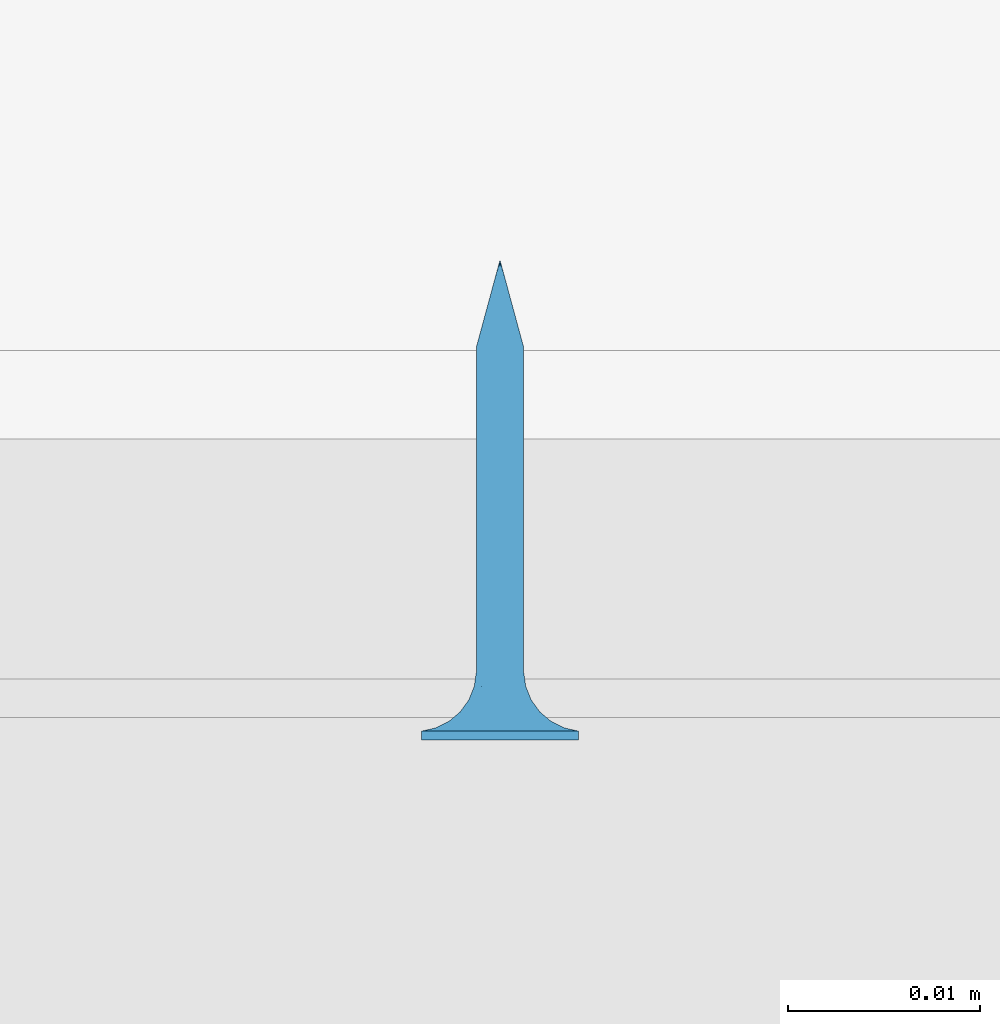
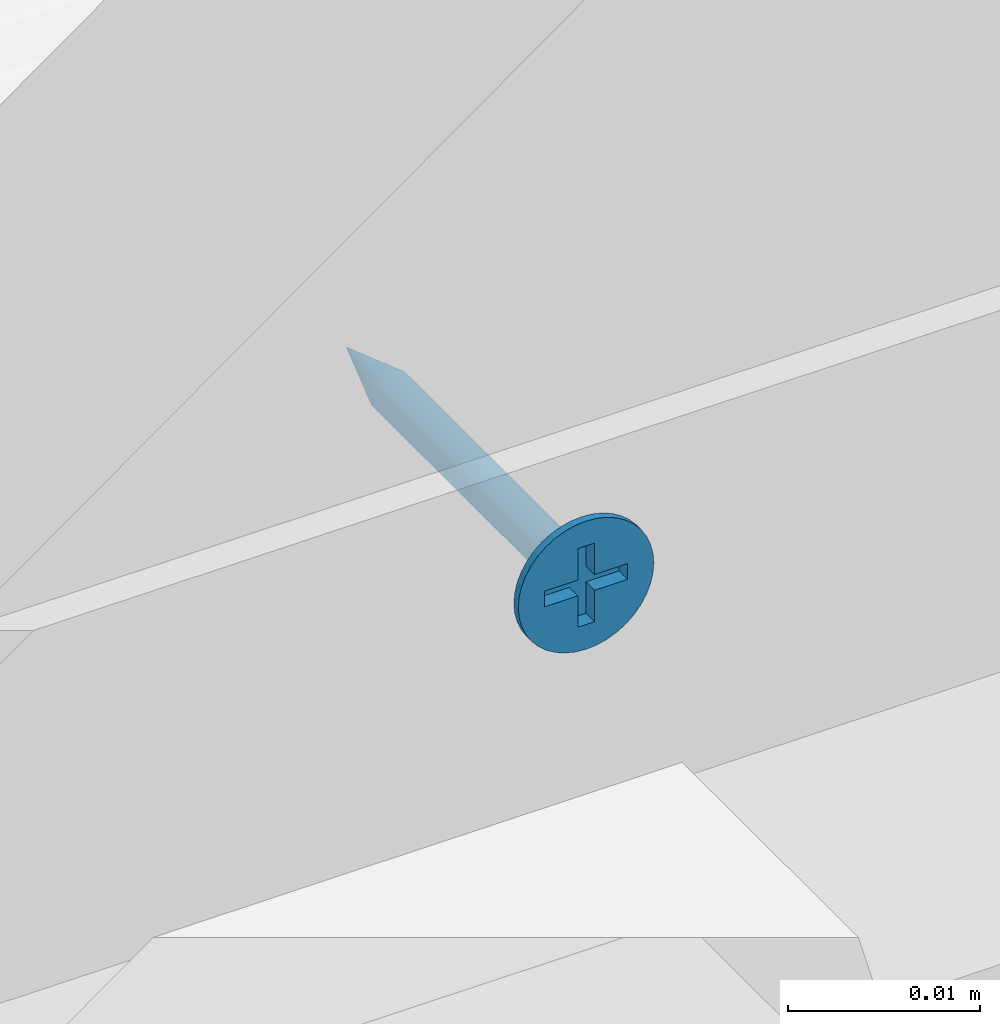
# One storey, part 38 of 79: 1 slab.
"""IFC2X3 building model written with IfcOpenShell, lengths in millimetres."""

from ifc_helpers import new_model, entity, si_unit, converted_unit, direction, frame, origin, origin_with_axes, place, context, project, spatial, faceted_brep, element, save


model = new_model("IFC2X3")

# Units and contexts
model_context = context("Model", 3, precision=1e-05, world=origin(), true_north=direction((0.0, 1.0, 0.0)))
ifc_project = project(units=[si_unit("LENGTHUNIT", "METRE", prefix="MILLI"), si_unit("AREAUNIT", "SQUARE_METRE"), si_unit("VOLUMEUNIT", "CUBIC_METRE"), converted_unit("PLANEANGLEUNIT", "DEGREE", entity("IfcPlaneAngleMeasure", 0.01745), si_unit("PLANEANGLEUNIT", "RADIAN"), dimensions=[0, 0, 0, 0, 0, 0, 0]), si_unit("SOLIDANGLEUNIT", "STERADIAN"), si_unit("MASSUNIT", "GRAM"), si_unit("TIMEUNIT", "SECOND"), si_unit("THERMODYNAMICTEMPERATUREUNIT", "DEGREE_CELSIUS"), si_unit("LUMINOUSINTENSITYUNIT", "LUMEN")], contexts=[model_context])

# Site, building, storey
site_placement = place(None, origin_with_axes())
site = spatial("IfcSite", under=ifc_project, at=site_placement, Name="Default Site", CompositionType="ELEMENT")
building_placement = place(site_placement, origin_with_axes())
building = spatial("IfcBuilding", under=site, at=building_placement, Name="Default Building", CompositionType="ELEMENT")
storey_placement = place(building_placement, origin_with_axes())
storey = spatial("IfcBuildingStorey", under=building, at=storey_placement, Name="Default Building Storey", CompositionType="ELEMENT", Elevation=0.0)

# Slab
slab_placement = place(storey_placement, frame((3630.499834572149, 5017.241866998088, 440.6779499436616), z_axis=(0.0, 0.0, 1.0), x_axis=(1.0, 0.0, 0.0)))
element("IfcSlab", 1, at=slab_placement, inside=storey, Name="Łącznik mechaniczny", context=model_context, shape_type="Brep", body=[
    faceted_brep([(-136.5890362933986, -3387.475459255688, 554.9298199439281), (-136.4636235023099, -3387.475459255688, 555.0766594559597), (-136.4636235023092, -3370.55807436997, 555.0766594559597), (-136.5890362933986, -3370.55807436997, 554.9298199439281), (-136.9005263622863, -3387.475459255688, 554.7035091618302), (-136.9005263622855, -3370.55807436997, 554.7035091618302), (-137.0789337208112, -3370.55807436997, 554.6296104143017), (-137.078933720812, -3387.475459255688, 554.6296104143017), (-137.2667048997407, -3387.475459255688, 554.5845305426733), (-137.2667048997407, -3370.55807436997, 554.5845305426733), (-137.4592163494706, -3370.55807436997, 554.5693795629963), (-137.4592163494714, -3387.475459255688, 554.5693795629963), (-136.4636235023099, -3387.475459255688, 556.5233405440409), (-136.5890362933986, -3387.475459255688, 556.6701800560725), (-136.5890362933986, -3370.55807436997, 556.6701800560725), (-136.4636235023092, -3370.55807436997, 556.5233405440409), (-138.4548091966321, -3370.55807436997, 556.5233405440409), (-138.3293964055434, -3370.55807436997, 556.6701800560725), (-138.3293964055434, -3387.475459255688, 556.6701800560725), (-138.4548091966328, -3387.475459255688, 556.5233405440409), (-136.7358758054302, -3370.55807436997, 554.8044071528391), (-136.7358758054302, -3387.475459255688, 554.8044071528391), (-138.1825568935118, -3387.475459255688, 556.7955928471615), (-138.1825568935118, -3370.55807436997, 556.7955928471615), (-138.0179063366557, -3370.55807436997, 556.8964908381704), (-138.0179063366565, -3387.475459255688, 556.8964908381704), (-136.3627255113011, -3387.475459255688, 556.3586899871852), (-136.3627255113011, -3370.55807436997, 556.3586899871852), (-136.7358758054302, -3387.475459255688, 556.7955928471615), (-136.7358758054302, -3370.55807436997, 556.7955928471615), (-137.6517277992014, -3387.475459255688, 554.5845305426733), (-137.6517277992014, -3370.55807436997, 554.5845305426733), (-137.83949897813, -3370.55807436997, 554.6296104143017), (-137.8394989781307, -3387.475459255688, 554.6296104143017), (-136.3627255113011, -3387.475459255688, 555.241310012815), (-136.3627255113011, -3370.55807436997, 555.241310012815), (-138.0179063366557, -3370.55807436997, 554.7035091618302), (-138.0179063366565, -3387.475459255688, 554.7035091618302), (-138.6746858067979, -3370.55807436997, 555.6074885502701), (-138.6898367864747, -3370.55807436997, 555.8000000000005), (-138.6898367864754, -3387.475459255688, 555.8000000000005), (-138.6746858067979, -3387.475459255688, 555.6074885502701), (-136.2285959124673, -3387.475459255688, 555.8000000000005), (-136.2437468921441, -3387.475459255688, 555.9925114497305), (-136.2437468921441, -3370.55807436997, 555.9925114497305), (-136.2285959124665, -3370.55807436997, 555.8000000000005), (-138.3293964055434, -3370.55807436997, 554.9298199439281), (-138.4548091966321, -3370.55807436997, 555.0766594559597), (-138.4548091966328, -3387.475459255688, 555.0766594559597), (-138.3293964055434, -3387.475459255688, 554.9298199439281), (-137.83949897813, -3370.55807436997, 556.9703895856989), (-137.8394989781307, -3387.475459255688, 556.9703895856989), (-138.1825568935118, -3370.55807436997, 554.8044071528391), (-138.1825568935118, -3387.475459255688, 554.8044071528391), (-138.5557071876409, -3370.55807436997, 555.241310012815), (-138.6296059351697, -3370.55807436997, 555.4197173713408), (-138.6296059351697, -3387.475459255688, 555.4197173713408), (-138.5557071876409, -3387.475459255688, 555.241310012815), (-136.2888267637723, -3387.475459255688, 555.4197173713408), (-136.2437468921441, -3387.475459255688, 555.6074885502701), (-136.2437468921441, -3370.55807436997, 555.6074885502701), (-136.2888267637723, -3370.55807436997, 555.4197173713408), (-136.2888267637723, -3387.475459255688, 556.1802826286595), (-136.2888267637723, -3370.55807436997, 556.1802826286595), (-137.4592163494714, -3387.475459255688, 557.0306204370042), (-137.4592163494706, -3370.55807436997, 557.0306204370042), (-137.2667048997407, -3370.55807436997, 557.0154694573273), (-137.2667048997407, -3387.475459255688, 557.0154694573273), (-137.0789337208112, -3370.55807436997, 556.9703895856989), (-137.078933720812, -3387.475459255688, 556.9703895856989), (-137.6517277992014, -3387.475459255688, 557.0154694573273), (-137.6517277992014, -3370.55807436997, 557.0154694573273), (-136.9005263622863, -3387.475459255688, 556.8964908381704), (-136.9005263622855, -3370.55807436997, 556.8964908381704), (-138.6296059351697, -3370.55807436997, 556.1802826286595), (-138.5557071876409, -3370.55807436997, 556.3586899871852), (-138.5557071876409, -3387.475459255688, 556.3586899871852), (-138.6296059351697, -3387.475459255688, 556.1802826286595), (-138.6746858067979, -3370.55807436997, 555.9925114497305), (-138.6746858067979, -3387.475459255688, 555.9925114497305), (-141.5377463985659, -3390.556721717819, 555.8000000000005), (-141.5377463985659, -3391.020944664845, 555.8000000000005), (-141.4875329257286, -3391.020944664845, 555.1619773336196), (-141.4875329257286, -3390.556721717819, 555.1619773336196), (-141.338128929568, -3391.020944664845, 554.539664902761), (-141.338128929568, -3390.556721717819, 554.539664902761), (-141.0932132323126, -3391.020944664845, 553.948386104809), (-141.0932132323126, -3390.556721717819, 553.948386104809), (-140.7588164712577, -3391.020944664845, 553.4027001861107), (-140.7588164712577, -3390.556721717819, 553.4027001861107), (-140.3431726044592, -3391.020944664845, 552.9160437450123), (-140.4541727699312, -3390.556721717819, 553.0314907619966), (-140.1080097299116, -3390.556721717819, 552.6986614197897), (-139.8565161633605, -3391.020944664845, 552.5003998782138), (-139.7251262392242, -3390.556721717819, 552.4088262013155), (-139.3108302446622, -3391.020944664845, 552.1660031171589), (-139.3108302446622, -3390.556721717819, 552.1660031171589), (-138.8708651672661, -3390.556721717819, 551.9735584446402), (-138.7195514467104, -3391.020944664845, 551.9210874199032), (-138.4113302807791, -3390.556721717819, 551.8341600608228), (-137.9385961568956, -3390.556721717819, 551.7497404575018), (-138.0972390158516, -3391.020944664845, 551.7716834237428), (-137.4592163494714, -3391.020944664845, 551.7214699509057), (-137.4592163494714, -3390.556721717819, 551.7214699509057), (-136.8211936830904, -3391.020944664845, 551.7716834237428), (-136.8211936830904, -3390.556721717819, 551.7716834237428), (-136.1988812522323, -3391.020944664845, 551.9210874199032), (-136.1988812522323, -3390.556721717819, 551.9210874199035), (-135.6076024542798, -3391.020944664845, 552.1660031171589), (-135.6076024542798, -3390.556721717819, 552.1660031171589), (-135.0619165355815, -3391.020944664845, 552.5003998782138), (-135.0619165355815, -3390.556721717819, 552.5003998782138), (-134.5752600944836, -3391.020944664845, 552.9160437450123), (-134.5752600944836, -3390.556721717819, 552.9160437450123), (-134.1596162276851, -3391.020944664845, 553.4027001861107), (-134.1596162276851, -3390.556721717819, 553.4027001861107), (-133.8252194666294, -3391.020944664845, 553.948386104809), (-133.8252194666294, -3390.556721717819, 553.948386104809), (-133.580303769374, -3391.020944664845, 554.539664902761), (-133.580303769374, -3390.556721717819, 554.539664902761), (-133.4308997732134, -3391.020944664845, 556.438022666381), (-133.4308997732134, -3390.556721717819, 556.438022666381), (-133.3806863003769, -3390.556721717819, 555.8000000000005), (-133.3806863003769, -3391.020944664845, 555.8000000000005), (-133.4308997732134, -3390.556721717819, 555.1619773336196), (-133.4308997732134, -3391.020944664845, 555.1619773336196), (-133.580303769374, -3391.020944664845, 557.0603350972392), (-133.580303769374, -3390.556721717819, 557.0603350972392), (-133.8252194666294, -3391.020944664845, 557.6516138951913), (-133.8252194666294, -3390.556721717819, 557.6516138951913), (-134.1596162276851, -3391.020944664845, 558.1972998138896), (-134.1596162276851, -3390.556721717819, 558.1972998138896), (-134.5752600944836, -3391.020944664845, 558.683956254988), (-134.5752600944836, -3390.556721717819, 558.683956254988), (-135.0619165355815, -3391.020944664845, 559.0996001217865), (-135.0619165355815, -3390.556721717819, 559.0996001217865), (-135.6076024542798, -3391.020944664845, 559.4339968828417), (-135.6076024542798, -3390.556721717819, 559.4339968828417), (-136.1988812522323, -3391.020944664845, 559.6789125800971), (-136.1988812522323, -3390.556721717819, 559.6789125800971), (-136.8211936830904, -3391.020944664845, 559.8283165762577), (-136.8211936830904, -3390.556721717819, 559.8283165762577), (-137.4592163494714, -3391.020944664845, 559.8785300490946), (-137.4592163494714, -3390.556721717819, 559.8785300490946), (-138.0972390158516, -3391.020944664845, 559.8283165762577), (-138.0972390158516, -3390.556721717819, 559.8283165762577), (-138.7195514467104, -3391.020944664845, 559.6789125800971), (-138.7195514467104, -3390.556721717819, 559.6789125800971), (-139.3108302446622, -3391.020944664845, 559.4339968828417), (-139.3108302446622, -3390.556721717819, 559.4339968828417), (-139.8565161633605, -3391.020944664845, 559.0996001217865), (-139.8565161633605, -3390.556721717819, 559.0996001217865), (-140.3431726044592, -3391.020944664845, 558.683956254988), (-140.3431726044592, -3390.556721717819, 558.683956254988), (-140.7588164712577, -3391.020944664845, 558.1972998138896), (-140.7588164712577, -3390.556721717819, 558.1972998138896), (-141.0932132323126, -3391.020944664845, 557.6516138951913), (-141.0932132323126, -3390.556721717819, 557.6516138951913), (-141.338128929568, -3391.020944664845, 557.0603350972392), (-141.338128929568, -3390.556721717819, 557.0603350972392), (-141.4875329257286, -3391.020944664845, 556.438022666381), (-141.4875329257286, -3390.556721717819, 556.438022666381), (-137.8060615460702, -3388.229732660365, 554.5055560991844), (-137.4592163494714, -3388.229732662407, 554.4598930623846), (-138.1292698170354, -3388.229732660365, 554.6394333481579), (-138.4068150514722, -3388.229732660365, 554.8524012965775), (-138.6197830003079, -3388.229732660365, 555.1299465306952), (-138.7536602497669, -3388.229732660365, 555.4531548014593), (-138.7993232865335, -3388.229732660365, 555.7999999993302), (-138.7536602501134, -3388.229732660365, 556.1468451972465), (-138.6197830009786, -3388.229732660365, 556.4700534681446), (-138.4068150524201, -3388.229732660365, 556.7475987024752), (-138.1292698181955, -3388.229732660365, 556.9605666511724), (-137.8060615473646, -3388.229732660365, 557.0944439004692), (-137.4592163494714, -3388.229732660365, 557.1401069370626), (-137.1123711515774, -3388.229732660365, 557.0944439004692), (-136.7891628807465, -3388.229732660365, 556.9605666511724), (-136.5116176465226, -3388.229732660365, 556.7475987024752), (-136.2986496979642, -3388.229732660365, 556.4700534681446), (-136.1647724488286, -3388.229732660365, 556.1468451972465), (-136.1191094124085, -3388.229732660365, 555.7999999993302), (-136.1647724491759, -3388.229732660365, 555.4531548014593), (-136.2986496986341, -3388.229732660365, 555.1299465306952), (-136.5116176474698, -3388.229732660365, 554.8524012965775), (-136.7891628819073, -3388.229732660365, 554.6394333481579), (-137.1123711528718, -3388.229732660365, 554.5055560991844), (-137.4592163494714, -3388.936142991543, 554.1737111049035), (-137.8801308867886, -3388.936142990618, 554.2291255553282), (-138.2723607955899, -3388.936142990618, 554.39159250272), (-138.6091762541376, -3388.936142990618, 554.6500400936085), (-138.8676238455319, -3388.936142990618, 554.9868555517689), (-139.0300907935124, -3388.936142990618, 555.3790854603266), (-139.0855052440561, -3388.936142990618, 555.7999999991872), (-139.0300907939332, -3388.936142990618, 556.2209145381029), (-138.8676238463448, -3388.936142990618, 556.6131444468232), (-138.6091762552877, -3388.936142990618, 556.949959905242), (-138.2723607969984, -3388.936142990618, 557.2084074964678), (-137.8801308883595, -3388.936142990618, 557.3708744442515), (-137.4592163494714, -3388.936142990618, 557.4262888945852), (-137.0383018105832, -3388.936142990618, 557.3708744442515), (-136.6460719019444, -3388.936142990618, 557.2084074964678), (-136.3092564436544, -3388.936142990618, 556.949959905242), (-136.0508088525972, -3388.936142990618, 556.6131444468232), (-135.8883419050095, -3388.936142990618, 556.2209145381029), (-135.8329274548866, -3388.936142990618, 555.7999999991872), (-135.8883419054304, -3388.936142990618, 555.3790854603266), (-136.0508088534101, -3388.936142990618, 554.9868555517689), (-136.3092564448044, -3388.936142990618, 554.6500400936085), (-136.6460719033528, -3388.936142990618, 554.39159250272), (-137.0383018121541, -3388.936142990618, 554.2291255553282), (-137.4592163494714, -3389.553938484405, 553.727343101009), (-137.9956594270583, -3389.553938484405, 553.7979671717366), (-138.4955447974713, -3389.553938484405, 554.0050264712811), (-138.9248060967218, -3389.553938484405, 554.3344102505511), (-139.2541898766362, -3389.553938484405, 554.7636715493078), (-139.46124917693, -3389.553938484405, 555.2635569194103), (-139.5318732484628, -3389.553938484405, 555.7999999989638), (-139.4612491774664, -3389.553938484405, 556.3364430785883), (-139.2541898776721, -3389.553938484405, 556.8363284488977), (-138.9248060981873, -3389.553938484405, 557.2655897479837), (-138.495544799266, -3389.553938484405, 557.5949735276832), (-137.9956594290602, -3389.553938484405, 557.8020328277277), (-137.4592163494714, -3389.553938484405, 557.8726568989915), (-136.9227732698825, -3389.553938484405, 557.8020328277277), (-136.422887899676, -3389.553938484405, 557.5949735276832), (-135.9936266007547, -3389.553938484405, 557.2655897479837), (-135.6642428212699, -3389.553938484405, 556.8363284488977), (-135.4571835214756, -3389.553938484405, 556.3364430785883), (-135.3865594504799, -3389.553938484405, 555.7999999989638), (-135.457183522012, -3389.553938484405, 555.2635569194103), (-135.6642428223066, -3389.553938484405, 554.7636715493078), (-135.9936266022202, -3389.553938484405, 554.3344102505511), (-136.4228879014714, -3389.553938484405, 554.0050264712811), (-136.9227732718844, -3389.553938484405, 553.7979671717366), (-137.4592163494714, -3390.04747944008, 553.1465393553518), (-138.1459824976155, -3390.047479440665, 553.2369538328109), (-138.7859466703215, -3390.047479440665, 553.5020356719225), (-139.3354963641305, -3390.047479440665, 553.9237199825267), (-139.757180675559, -3390.047479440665, 554.4732696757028), (-140.0222625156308, -3390.047479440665, 555.1132338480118), (-140.1126769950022, -3390.047479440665, 555.7999999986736), (-140.0222625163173, -3390.047479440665, 556.4867661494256), (-139.7571806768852, -3390.047479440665, 557.1267303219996), (-139.3354963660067, -3390.047479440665, 557.6762800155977), (-138.7859466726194, -3390.047479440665, 558.0979643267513), (-138.1459825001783, -3390.047479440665, 558.3630461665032), (-137.4592163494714, -3390.047479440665, 558.4534606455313), (-136.7724501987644, -3390.047479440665, 558.3630461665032), (-136.1324860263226, -3390.047479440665, 558.0979643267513), (-135.5829363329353, -3390.047479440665, 557.6762800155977), (-135.1612520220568, -3390.047479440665, 557.1267303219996), (-134.8961701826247, -3390.047479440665, 556.4867661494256), (-134.8057557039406, -3390.047479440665, 555.7999999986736), (-134.8961701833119, -3390.047479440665, 555.1132338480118), (-135.1612520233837, -3390.047479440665, 554.4732696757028), (-135.5829363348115, -3390.047479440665, 553.9237199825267), (-136.1324860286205, -3390.047479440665, 553.5020356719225), (-136.7724502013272, -3390.047479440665, 553.2369538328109), (-137.4592163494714, -3390.388294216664, 552.4648055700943), (-138.3224281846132, -3390.388294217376, 552.5784495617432), (-139.1268135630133, -3390.388294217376, 552.9116368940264), (-139.8175549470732, -3390.388294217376, 553.4416613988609), (-140.3475794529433, -3390.388294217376, 554.1324027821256), (-140.6807667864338, -3390.388294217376, 554.9367881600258), (-140.7944107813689, -3390.388294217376, 555.7999999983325), (-140.6807667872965, -3390.388294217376, 556.6632118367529), (-140.3475794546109, -3390.388294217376, 557.4675972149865), (-139.8175549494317, -3390.388294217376, 558.1583385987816), (-139.1268135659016, -3390.388294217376, 558.6883631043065), (-138.3224281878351, -3390.388294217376, 559.0215504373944), (-137.4592163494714, -3390.388294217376, 559.1351944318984), (-136.5960045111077, -3390.388294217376, 559.0215504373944), (-135.7916191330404, -3390.388294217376, 558.6883631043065), (-135.1008777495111, -3390.388294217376, 558.1583385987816), (-134.5708532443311, -3390.388294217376, 557.4675972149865), (-134.2376659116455, -3390.388294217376, 556.6632118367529), (-134.1240219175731, -3390.388294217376, 555.7999999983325), (-134.2376659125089, -3390.388294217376, 554.9367881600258), (-134.5708532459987, -3390.388294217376, 554.1324027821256), (-135.1008777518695, -3390.388294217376, 553.4416613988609), (-135.7916191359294, -3390.388294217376, 552.9116368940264), (-136.5960045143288, -3390.388294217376, 552.5784495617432), (-137.4592163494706, -3366.021033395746, 555.8000000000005), (-139.9592163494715, -3391.020944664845, 556.3000000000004), (-137.9592163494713, -3391.020944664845, 556.3000000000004), (-139.9592163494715, -3391.020944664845, 555.3000000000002), (-137.9592163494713, -3391.020944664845, 555.3000000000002), (-137.9592163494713, -3391.020944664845, 553.3000000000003), (-136.9592163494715, -3391.020944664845, 553.3000000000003), (-136.9592163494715, -3391.020944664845, 555.3000000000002), (-134.9592163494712, -3391.020944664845, 555.3000000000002), (-134.9592163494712, -3391.020944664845, 556.3000000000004), (-136.9592163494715, -3391.020944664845, 556.3000000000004), (-136.9592163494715, -3391.020944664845, 558.3000000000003), (-137.9592163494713, -3391.020944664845, 558.3000000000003), (-136.9592163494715, -3390.128974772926, 556.3000000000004), (-134.9592163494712, -3390.128974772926, 556.3000000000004), (-134.9592163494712, -3390.128974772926, 555.3000000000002), (-136.9592163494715, -3390.128974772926, 555.3000000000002), (-136.9592163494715, -3390.128974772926, 553.3000000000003), (-137.9592163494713, -3390.128974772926, 553.3000000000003), (-137.9592163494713, -3390.128974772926, 555.3000000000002), (-139.9592163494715, -3390.128974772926, 555.3000000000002), (-139.9592163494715, -3390.128974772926, 556.3000000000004), (-137.9592163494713, -3390.128974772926, 556.3000000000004), (-137.9592163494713, -3390.128974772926, 558.3000000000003), (-136.9592163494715, -3390.128974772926, 558.3000000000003)], [[[0, 1, 2, 3]], [[4, 5, 6, 7]], [[8, 9, 10, 11]], [[12, 13, 14, 15]], [[16, 17, 18, 19]], [[0, 3, 20, 21]], [[22, 23, 24, 25]], [[26, 12, 15, 27]], [[28, 29, 14, 13]], [[30, 31, 32, 33]], [[1, 34, 35, 2]], [[18, 17, 23, 22]], [[7, 6, 9, 8]], [[33, 32, 36, 37]], [[38, 39, 40, 41]], [[42, 43, 44, 45]], [[46, 47, 48, 49]], [[25, 24, 50, 51]], [[37, 36, 52, 53]], [[54, 55, 56, 57]], [[53, 52, 46, 49]], [[47, 54, 57, 48]], [[58, 59, 60, 61]], [[59, 42, 45, 60]], [[43, 62, 63, 44]], [[64, 65, 66, 67]], [[67, 66, 68, 69]], [[55, 38, 41, 56]], [[70, 71, 65, 64]], [[72, 73, 29, 28]], [[74, 75, 76, 77]], [[69, 68, 73, 72]], [[39, 78, 79, 40]], [[75, 16, 19, 76]], [[62, 26, 27, 63]], [[11, 10, 31, 30]], [[21, 20, 5, 4]], [[34, 58, 61, 35]], [[51, 50, 71, 70]], [[78, 74, 77, 79]], [[80, 81, 82, 83]], [[84, 85, 83, 82]], [[86, 87, 85, 84]], [[87, 86, 88, 89]], [[88, 90, 89]], [[90, 91, 89]], [[92, 91, 93]], [[91, 90, 93]], [[93, 94, 92]], [[93, 95, 94]], [[95, 96, 94]], [[97, 96, 98]], [[96, 95, 98]], [[98, 99, 97]], [[100, 99, 101]], [[99, 98, 101]], [[101, 102, 100]], [[102, 103, 100]], [[103, 102, 104, 105]], [[106, 107, 105, 104]], [[108, 109, 107, 106]], [[109, 108, 110, 111]], [[112, 113, 111, 110]], [[113, 112, 114, 115]], [[116, 117, 115, 114]], [[118, 119, 117, 116]], [[120, 121, 122, 123]], [[123, 122, 124, 125]], [[119, 118, 125, 124]], [[126, 127, 121, 120]], [[128, 129, 127, 126]], [[129, 128, 130, 131]], [[132, 133, 131, 130]], [[133, 132, 134, 135]], [[136, 137, 135, 134]], [[138, 139, 137, 136]], [[139, 138, 140, 141]], [[142, 143, 141, 140]], [[143, 142, 144, 145]], [[146, 147, 145, 144]], [[148, 149, 147, 146]], [[149, 148, 150, 151]], [[152, 153, 151, 150]], [[153, 152, 154, 155]], [[156, 157, 155, 154]], [[158, 159, 157, 156]], [[159, 158, 160, 161]], [[81, 80, 161, 160]], [[162, 11, 30]], [[162, 163, 11]], [[30, 33, 162]], [[162, 33, 164]], [[37, 164, 33]], [[164, 37, 53]], [[53, 165, 164]], [[53, 49, 165]], [[166, 49, 48]], [[166, 165, 49]], [[48, 57, 166]], [[166, 57, 167]], [[56, 167, 57]], [[167, 56, 41]], [[41, 168, 167]], [[41, 40, 168]], [[169, 40, 79]], [[169, 168, 40]], [[79, 77, 169]], [[169, 77, 170]], [[76, 170, 77]], [[170, 76, 19]], [[19, 171, 170]], [[19, 18, 171]], [[172, 18, 22]], [[172, 171, 18]], [[22, 25, 172]], [[172, 25, 173]], [[51, 173, 25]], [[173, 51, 70]], [[70, 174, 173]], [[70, 64, 174]], [[175, 64, 67]], [[175, 174, 64]], [[67, 69, 175]], [[175, 69, 176]], [[72, 176, 69]], [[176, 72, 28]], [[28, 177, 176]], [[28, 13, 177]], [[178, 13, 12]], [[178, 177, 13]], [[12, 26, 178]], [[178, 26, 179]], [[62, 179, 26]], [[179, 62, 43]], [[43, 180, 179]], [[43, 42, 180]], [[181, 42, 59]], [[181, 180, 42]], [[59, 58, 181]], [[181, 58, 182]], [[34, 182, 58]], [[182, 34, 1]], [[1, 183, 182]], [[1, 0, 183]], [[184, 0, 21]], [[184, 183, 0]], [[21, 4, 184]], [[184, 4, 185]], [[7, 185, 4]], [[185, 7, 8]], [[8, 163, 185]], [[8, 11, 163]], [[186, 163, 187]], [[162, 187, 163]], [[164, 188, 187, 162]], [[165, 189, 188, 164]], [[166, 190, 189, 165]], [[167, 191, 190, 166]], [[168, 192, 191, 167]], [[169, 193, 192, 168]], [[170, 194, 193, 169]], [[171, 195, 194, 170]], [[172, 196, 195, 171]], [[173, 197, 196, 172]], [[174, 198, 197, 173]], [[175, 199, 198, 174]], [[176, 200, 199, 175]], [[177, 201, 200, 176]], [[178, 202, 201, 177]], [[179, 203, 202, 178]], [[180, 204, 203, 179]], [[181, 205, 204, 180]], [[182, 206, 205, 181]], [[183, 207, 206, 182]], [[184, 208, 207, 183]], [[185, 209, 208, 184]], [[185, 163, 209]], [[186, 209, 163]], [[210, 186, 211]], [[187, 211, 186]], [[188, 212, 211, 187]], [[189, 213, 212, 188]], [[190, 214, 213, 189]], [[191, 215, 214, 190]], [[192, 216, 215, 191]], [[193, 217, 216, 192]], [[194, 218, 217, 193]], [[195, 219, 218, 194]], [[196, 220, 219, 195]], [[197, 221, 220, 196]], [[198, 222, 221, 197]], [[199, 223, 222, 198]], [[200, 224, 223, 199]], [[201, 225, 224, 200]], [[202, 226, 225, 201]], [[203, 227, 226, 202]], [[204, 228, 227, 203]], [[205, 229, 228, 204]], [[206, 230, 229, 205]], [[207, 231, 230, 206]], [[208, 232, 231, 207]], [[209, 233, 232, 208]], [[209, 186, 233]], [[210, 233, 186]], [[234, 210, 235]], [[211, 235, 210]], [[212, 236, 235, 211]], [[213, 237, 236, 212]], [[214, 238, 237, 213]], [[215, 239, 238, 214]], [[216, 240, 239, 215]], [[217, 241, 240, 216]], [[218, 242, 241, 217]], [[219, 243, 242, 218]], [[220, 244, 243, 219]], [[221, 245, 244, 220]], [[222, 246, 245, 221]], [[223, 247, 246, 222]], [[224, 248, 247, 223]], [[225, 249, 248, 224]], [[226, 250, 249, 225]], [[227, 251, 250, 226]], [[228, 252, 251, 227]], [[229, 253, 252, 228]], [[230, 254, 253, 229]], [[231, 255, 254, 230]], [[232, 256, 255, 231]], [[233, 257, 256, 232]], [[233, 210, 257]], [[234, 257, 210]], [[258, 99, 100]], [[258, 259, 99]], [[100, 103, 258]], [[258, 234, 259]], [[235, 259, 234]], [[259, 96, 97]], [[259, 260, 96]], [[97, 99, 259]], [[236, 260, 259, 235]], [[261, 91, 92]], [[260, 92, 94]], [[260, 261, 92]], [[94, 96, 260]], [[237, 261, 260, 236]], [[262, 87, 89]], [[89, 261, 262]], [[89, 91, 261]], [[238, 262, 261, 237]], [[85, 87, 263]], [[262, 263, 87]], [[239, 263, 262, 238]], [[263, 80, 83]], [[263, 264, 80]], [[83, 85, 263]], [[240, 264, 263, 239]], [[265, 159, 161]], [[161, 264, 265]], [[161, 80, 264]], [[241, 265, 264, 240]], [[265, 266, 157, 159]], [[242, 266, 265, 241]], [[266, 153, 155]], [[266, 267, 153]], [[155, 157, 266]], [[243, 267, 266, 242]], [[268, 149, 151]], [[151, 267, 268]], [[151, 153, 267]], [[244, 268, 267, 243]], [[268, 269, 147, 149]], [[245, 269, 268, 244]], [[269, 143, 145]], [[269, 270, 143]], [[145, 147, 269]], [[246, 270, 269, 245]], [[271, 139, 141]], [[141, 270, 271]], [[141, 143, 270]], [[247, 271, 270, 246]], [[271, 272, 137, 139]], [[248, 272, 271, 247]], [[272, 133, 135]], [[272, 273, 133]], [[135, 137, 272]], [[249, 273, 272, 248]], [[274, 129, 131]], [[131, 273, 274]], [[131, 133, 273]], [[250, 274, 273, 249]], [[274, 275, 127, 129]], [[251, 275, 274, 250]], [[275, 122, 121]], [[275, 276, 122]], [[121, 127, 275]], [[252, 276, 275, 251]], [[277, 119, 124]], [[124, 276, 277]], [[124, 122, 276]], [[253, 277, 276, 252]], [[117, 119, 278]], [[277, 278, 119]], [[254, 278, 277, 253]], [[278, 113, 115]], [[278, 279, 113]], [[115, 117, 278]], [[255, 279, 278, 254]], [[280, 109, 111]], [[111, 279, 280]], [[111, 113, 279]], [[256, 280, 279, 255]], [[107, 109, 281]], [[280, 281, 109]], [[257, 281, 280, 256]], [[257, 234, 281]], [[258, 281, 234]], [[281, 103, 105]], [[281, 258, 103]], [[105, 107, 281]], [[38, 55, 282]], [[282, 39, 38]], [[55, 54, 282]], [[47, 46, 282]], [[282, 54, 47]], [[52, 36, 282]], [[282, 46, 52]], [[36, 32, 282]], [[31, 10, 282]], [[282, 32, 31]], [[9, 6, 282]], [[282, 10, 9]], [[6, 5, 282]], [[20, 3, 282]], [[282, 5, 20]], [[2, 35, 282]], [[282, 3, 2]], [[35, 61, 282]], [[60, 45, 282]], [[282, 61, 60]], [[44, 63, 282]], [[282, 45, 44]], [[63, 27, 282]], [[15, 14, 282]], [[282, 27, 15]], [[29, 73, 282]], [[282, 14, 29]], [[73, 68, 282]], [[66, 65, 282]], [[282, 68, 66]], [[71, 50, 282]], [[282, 65, 71]], [[50, 24, 282]], [[23, 17, 282]], [[282, 24, 23]], [[16, 75, 282]], [[282, 17, 16]], [[75, 74, 282]], [[78, 39, 282]], [[282, 74, 78]], [[283, 156, 154, 284]], [[283, 285, 286, 287, 288, 289, 290, 291, 292, 293, 294, 284, 154, 152, 150, 148, 146, 144, 142, 140, 138, 136, 134, 132, 130, 128, 126, 120, 123, 125, 118, 116, 114, 112, 110, 108, 106, 104, 102, 101, 98, 95, 93, 90, 88, 86, 84, 82, 81, 160, 158, 156]], [[295, 296, 297, 298, 299, 300, 301, 302, 303, 304, 305, 306]], [[297, 290, 289, 298]], [[296, 291, 290, 297]], [[295, 292, 291, 296]], [[306, 293, 292, 295]], [[305, 294, 293, 306]], [[304, 284, 294, 305]], [[303, 283, 284, 304]], [[302, 285, 283, 303]], [[301, 286, 285, 302]], [[300, 287, 286, 301]], [[299, 288, 287, 300]], [[298, 289, 288, 299]]]),
])

save(model, "model.ifc")
